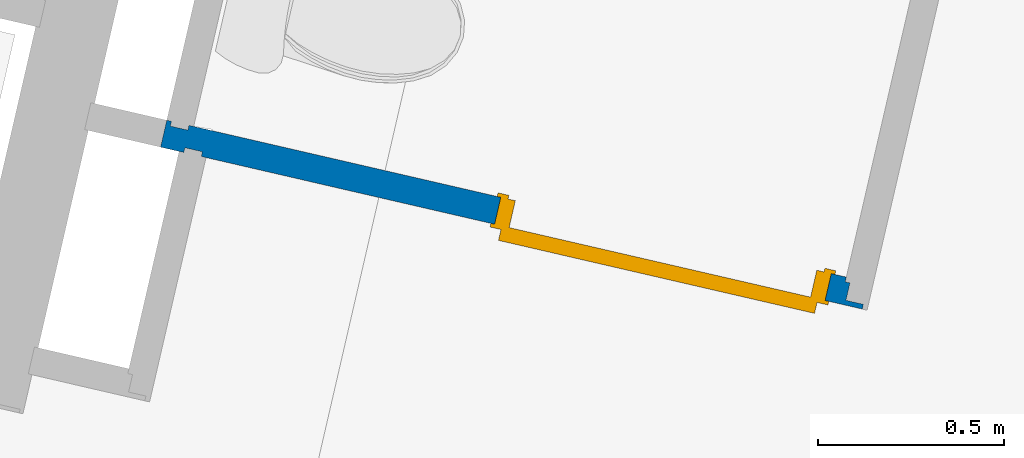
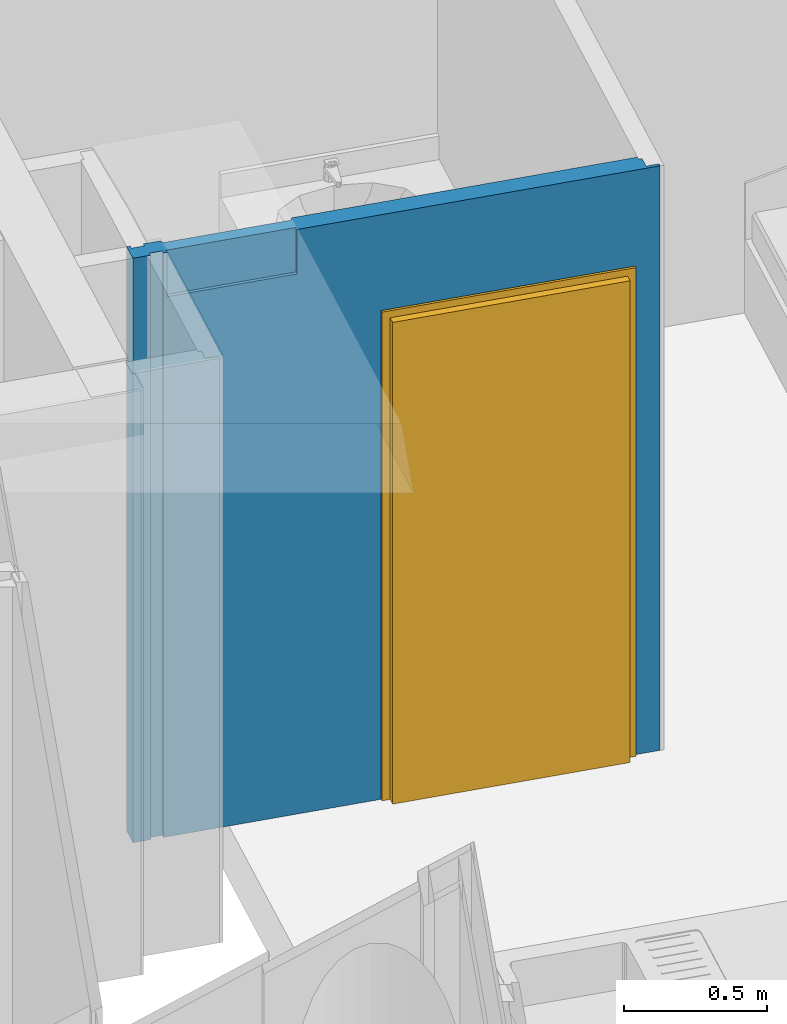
# One storey, part 24 of 119: 1 door, 1 wall, 1 opening.
"""IFC2X3 building model written with IfcOpenShell, lengths in metres."""

from ifc_helpers import new_model, entity, si_unit, converted_unit, derived_unit, money_unit, direction, frame, origin_with_axes, place, context, subcontext, project, spatial, faceted_brep, source, transform, mapped, material, material_list, type_object, element, fill, save


model = new_model("IFC2X3")

# Units and contexts
model_context = context("Model", 3, precision=1e-05, world=origin_with_axes(), true_north=direction((0.0, 1.0)))
body_context = subcontext(model_context, "Body", "Model", "MODEL_VIEW")
ifc_project = project(units=[si_unit("LENGTHUNIT", "METRE"), si_unit("AREAUNIT", "SQUARE_METRE"), si_unit("VOLUMEUNIT", "CUBIC_METRE"), converted_unit("PLANEANGLEUNIT", "DEGREE", entity("IfcPlaneAngleMeasure", 0.0174532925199), si_unit("PLANEANGLEUNIT", "RADIAN"), dimensions=[0, 0, 0, 0, 0, 0, 0]), si_unit("SOLIDANGLEUNIT", "STERADIAN"), money_unit("EUR"), converted_unit("TIMEUNIT", "Year", entity("IfcTimeMeasure", 31556926.0), si_unit("TIMEUNIT", "SECOND"), dimensions=[0, 0, 1, 0, 0, 0, 0]), si_unit("MASSUNIT", "GRAM", prefix="KILO"), si_unit("THERMODYNAMICTEMPERATUREUNIT", "DEGREE_CELSIUS"), si_unit("LUMINOUSINTENSITYUNIT", "LUMEN"), si_unit("ENERGYUNIT", "JOULE", prefix="MEGA"), derived_unit("THERMALCONDUCTANCEUNIT", [(si_unit("POWERUNIT", "WATT"), 1), (si_unit("LENGTHUNIT", "METRE"), -1), (si_unit("THERMODYNAMICTEMPERATUREUNIT", "KELVIN"), -1)]), derived_unit("SPECIFICHEATCAPACITYUNIT", [(si_unit("ENERGYUNIT", "JOULE"), 1), (si_unit("MASSUNIT", "GRAM", prefix="KILO"), -1), (si_unit("THERMODYNAMICTEMPERATUREUNIT", "KELVIN"), -1)]), derived_unit("MASSDENSITYUNIT", [(si_unit("MASSUNIT", "GRAM", prefix="KILO"), 1), (si_unit("VOLUMEUNIT", "CUBIC_METRE"), -1)])], contexts=[model_context])

# Site, building, storey
site_placement = place(None, origin_with_axes())
site = spatial("IfcSite", under=ifc_project, at=site_placement, Name="Site", CompositionType="ELEMENT")
building_placement = place(site_placement, origin_with_axes())
building = spatial("IfcBuilding", under=site, at=building_placement, Name="Bâtiment", CompositionType="ELEMENT")
storey_placement = place(building_placement, origin_with_axes())
storey = spatial("IfcBuildingStorey", under=building, at=storey_placement, Name="Rez-de-chaussée", CompositionType="ELEMENT", Elevation=0.0)

# Wall, opening, door
ifc_material_1 = material(Name="Finition int - Plaque de plâtre")
ifc_material_2 = material(Name="Isolation - Laine de roche")
ifc_material_list = material_list([ifc_material_1, ifc_material_2, ifc_material_1])
wall_type = type_object("IfcWallType", Name="3 - Cloison 72mm Placostil 74", PredefinedType="USERDEFINED")
wall_placement = place(storey_placement, frame((-8.11042832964, 1.31226062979, 0.0), z_axis=(0.0, 0.0, 1.0), x_axis=(0.974387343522, -0.224876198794, 0.0)))
wall = element("IfcWall", 1, at=wall_placement, inside=storey, type_object=wall_type, material=ifc_material_list, Name="Cloison Placostil 72/48", ObjectType="PARTITIONING", context=body_context, shape_type="Brep", body=[
    faceted_brep([(0.0129999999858, -0.013, 2.5), (0.013, 0.0, 2.5), (0.0, 0.0, 2.5), (0.0, -0.013, 2.5), (0.0129999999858, -0.013, 0.0), (0.013, 0.0, 0.0), (0.0, 0.0, 0.0), (0.0, -0.013, 0.0)], [[[0, 1, 2, 3]], [[1, 0, 4, 5]], [[1, 5, 6, 2]], [[7, 3, 2, 6]], [[4, 0, 3, 7]], [[5, 4, 7, 6]]]),
    faceted_brep([(0.919522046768, 0.0, 2.08), (0.919522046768, 0.0, 0.0), (0.061, 0.0, 0.0), (0.061, 0.0, 2.5), (0.125000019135, 0.0, 2.5), (0.124999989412, 0.0, 2.31), (0.60099998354, 0.0, 2.31), (0.60099998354, 0.0, 2.5), (1.87100000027, 0.0, 2.5), (1.87100000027, 0.0, 0.0), (1.82952204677, 0.0, 0.0), (1.82952204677, 0.0, 2.08), (0.919522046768, -0.013, 2.08), (0.919522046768, -0.013, 0.0), (0.0609999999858, -0.013, 0.0), (0.0609999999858, -0.013, 2.5), (0.125000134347, -0.013, 2.5), (0.124999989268, -0.013, 2.31), (0.600999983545, -0.013, 2.31), (0.600999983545, -0.013, 2.5), (1.87100000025, -0.013, 2.5), (1.87100000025, -0.013, 0.0), (1.82952204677, -0.013, 0.0), (1.82952204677, -0.013, 2.08)], [[[0, 1, 2, 3, 4, 5, 6, 7, 8, 9, 10, 11]], [[1, 0, 12, 13]], [[1, 13, 14, 2]], [[15, 3, 2, 14]], [[4, 3, 15, 16]], [[4, 16, 17, 5]], [[5, 17, 18, 6]], [[7, 6, 18, 19]], [[19, 20, 8, 7]], [[20, 21, 9, 8]], [[22, 10, 9, 21]], [[11, 10, 22, 23]], [[0, 11, 23, 12]], [[23, 22, 21, 20, 19, 18, 17, 16, 15, 14, 13, 12]]]),
    faceted_brep([(0.919522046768, -0.013, 2.08), (0.919522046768, -0.013, 0.0), (0.0, -0.013, 0.0), (0.0, -0.013, 2.5), (1.88400000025, -0.013, 2.5), (1.88400000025, -0.013, 0.0), (1.82952204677, -0.013, 0.0), (1.82952204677, -0.013, 2.08), (0.919522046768, -0.061, 2.08), (0.919522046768, -0.061, 0.0), (0.0, -0.061, 0.0), (0.0, -0.061, 2.5), (1.88400000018, -0.061, 2.5), (1.88400000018, -0.061, 0.0), (1.82952204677, -0.061, 0.0), (1.82952204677, -0.061, 2.08)], [[[0, 1, 2, 3, 4, 5, 6, 7]], [[1, 0, 8, 9]], [[1, 9, 10, 2]], [[11, 3, 2, 10]], [[4, 3, 11, 12]], [[12, 13, 5, 4]], [[14, 6, 5, 13]], [[7, 6, 14, 15]], [[0, 7, 15, 8]], [[15, 14, 13, 12, 11, 10, 9, 8]]]),
    faceted_brep([(0.919522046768, -0.061, 2.08), (0.919522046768, -0.061, 0.0), (0.111999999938, -0.061, 0.0), (0.111999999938, -0.061, 2.5), (0.125000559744, -0.061, 2.5), (0.124999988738, -0.061, 2.31), (0.600999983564, -0.061, 2.31), (0.600999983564, -0.061, 2.5), (1.93200000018, -0.061, 2.5), (1.93200000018, -0.061, 0.0), (1.82952204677, -0.061, 0.0), (1.82952204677, -0.061, 2.08), (0.919522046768, -0.074, 2.08), (0.919522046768, -0.074, 0.0), (0.111999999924, -0.074, 0.0), (0.111999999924, -0.074, 2.5), (0.125000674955, -0.074, 2.5), (0.124999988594, -0.074, 2.31), (0.600999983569, -0.074, 2.31), (0.600999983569, -0.074, 2.5), (1.93200000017, -0.074, 2.5), (1.93200000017, -0.074, 0.0), (1.82952204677, -0.074, 0.0), (1.82952204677, -0.074, 2.08)], [[[0, 1, 2, 3, 4, 5, 6, 7, 8, 9, 10, 11]], [[1, 0, 12, 13]], [[1, 13, 14, 2]], [[15, 3, 2, 14]], [[4, 3, 15, 16]], [[4, 16, 17, 5]], [[5, 17, 18, 6]], [[7, 6, 18, 19]], [[19, 20, 8, 7]], [[20, 21, 9, 8]], [[22, 10, 9, 21]], [[11, 10, 22, 23]], [[0, 11, 23, 12]], [[23, 22, 21, 20, 19, 18, 17, 16, 15, 14, 13, 12]]]),
    faceted_brep([(0.0639999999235, -0.074, 2.5), (0.0639999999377, -0.061, 2.5), (0.0, -0.061, 2.5), (0.0, -0.074, 2.5), (0.0639999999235, -0.074, 0.0), (0.0639999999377, -0.061, 0.0), (0.0, -0.061, 0.0), (0.0, -0.074, 0.0)], [[[0, 1, 2, 3]], [[1, 0, 4, 5]], [[1, 5, 6, 2]], [[7, 3, 2, 6]], [[4, 0, 3, 7]], [[5, 4, 7, 6]]]),
])
opening_placement = place(wall_placement, frame((1.37452204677, 0.0, 0.0), z_axis=(0.0, 0.0, 1.0), x_axis=(1.0, 0.0, 0.0)))
opening = element("IfcOpeningElement", 2, at=opening_placement, cuts=wall, Name="Porte 83x204 bois alvéolaire", context=body_context, shape_type="Brep", body=[
    faceted_brep([(0.455, -0.074, 0.0), (-0.455, -0.074, 0.0), (-0.455, 0.074, 0.0), (0.455, 0.074, 0.0), (0.455, -0.074, 2.08), (-0.455, -0.074, 2.08), (-0.455, 0.074, 2.08), (0.455, 0.074, 2.08)], [[[0, 1, 2, 3]], [[0, 4, 5, 1]], [[1, 5, 6, 2]], [[3, 2, 6, 7]], [[4, 0, 3, 7]], [[5, 4, 7, 6]]]),
])
door_style = type_object("IfcDoorStyle", Name="Porte int générique 2019", ConstructionType="NOTDEFINED", OperationType="SINGLE_SWING_LEFT", ParameterTakesPrecedence=False, Sizeable=False)
shared_shape = source(origin_with_axes(), body_context, "Body", "Brep", [
    faceted_brep([(-0.455, 0.0, 0.0), (-0.455, 0.0, 2.08), (0.455, 0.0, 2.08), (0.455, 0.0, 0.0), (0.415, 0.0, 0.0), (0.415, 0.0, 2.04), (-0.415, 0.0, 2.04), (-0.415, 0.0, 0.0), (-0.455, -0.074, 0.0), (-0.455, -0.074, 2.08), (0.455, -0.074, 2.08), (0.455, -0.074, 0.0), (0.415, -0.074, 0.0), (0.415, -0.074, 2.04), (-0.415, -0.074, 2.04), (-0.415, -0.074, 0.0)], [[[0, 1, 2, 3, 4, 5, 6, 7]], [[8, 9, 1, 0]], [[9, 10, 2, 1]], [[10, 11, 3, 2]], [[3, 11, 12, 4]], [[5, 4, 12, 13]], [[6, 5, 13, 14]], [[7, 6, 14, 15]], [[0, 7, 15, 8]], [[15, 14, 13, 12, 11, 10, 9, 8]]]),
    faceted_brep([(-0.465, 0.0, 0.0), (-0.465, 0.0, 2.09), (-0.465, 0.01, 2.09), (-0.465, 0.01, 0.0), (-0.435, 0.0, 0.0), (-0.435, 0.0, 2.06), (0.435, 0.0, 2.06), (0.435, 0.0, 0.0), (0.465, 0.0, 0.0), (0.465, 0.0, 2.09), (0.465, 0.01, 2.09), (0.465, 0.01, 0.0), (0.435, 0.01, 0.0), (0.435, 0.01, 2.06), (-0.435, 0.01, 2.06), (-0.435, 0.01, 0.0)], [[[0, 1, 2, 3]], [[4, 5, 6, 7, 8, 9, 1, 0]], [[1, 9, 10, 2]], [[3, 2, 10, 11, 12, 13, 14, 15]], [[0, 3, 15, 4]], [[15, 14, 5, 4]], [[14, 13, 6, 5]], [[13, 12, 7, 6]], [[8, 7, 12, 11]], [[9, 8, 11, 10]]]),
    faceted_brep([(-0.465, -0.084, 0.0), (-0.465, -0.084, 2.09), (-0.465, -0.074, 2.09), (-0.465, -0.074, 0.0), (-0.435, -0.084, 0.0), (-0.435, -0.084, 2.06), (0.435, -0.084, 2.06), (0.435, -0.084, 0.0), (0.465, -0.084, 0.0), (0.465, -0.084, 2.09), (0.465, -0.074, 2.09), (0.465, -0.074, 0.0), (0.435, -0.074, 0.0), (0.435, -0.074, 2.06), (-0.435, -0.074, 2.06), (-0.435, -0.074, 0.0)], [[[0, 1, 2, 3]], [[4, 5, 6, 7, 8, 9, 1, 0]], [[1, 9, 10, 2]], [[3, 2, 10, 11, 12, 13, 14, 15]], [[0, 3, 15, 4]], [[15, 14, 5, 4]], [[14, 13, 6, 5]], [[13, 12, 7, 6]], [[8, 7, 12, 11]], [[9, 8, 11, 10]]]),
    faceted_brep([(-0.435, 0.04, 0.0), (0.435, 0.04, 0.0), (0.435, 0.0, 0.0), (-0.435, 0.0, 0.0), (-0.435, 0.04, 2.06), (0.435, 0.04, 2.06), (0.435, 0.0, 2.06), (-0.435, 0.0, 2.06)], [[[0, 1, 2, 3]], [[0, 4, 5, 1]], [[1, 5, 6, 2]], [[3, 2, 6, 7]], [[4, 0, 3, 7]], [[5, 4, 7, 6]]]),
])
door_placement = place(opening_placement, frame((0.415, 0.0, 0.0), z_axis=(0.0, 0.0, 1.0), x_axis=(-1.0, 0.0, 0.0)))
door = element("IfcDoor", 3, at=door_placement, inside=storey, type_object=door_style, Name="Porte 83x204 bois alvéolaire", ObjectType="DOOR", OverallHeight=2.04, OverallWidth=0.83, context=body_context, shape_type="MappedRepresentation", body=[
    mapped(shared_shape, transform((0.415, 0.074, 0.0))),
])
fill(opening, door)

save(model, "model.ifc")
